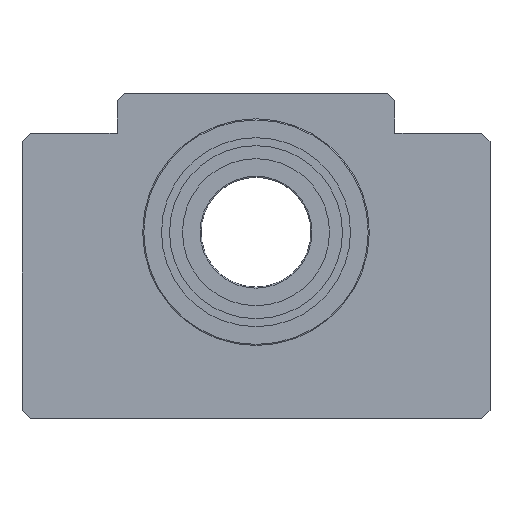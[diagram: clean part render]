
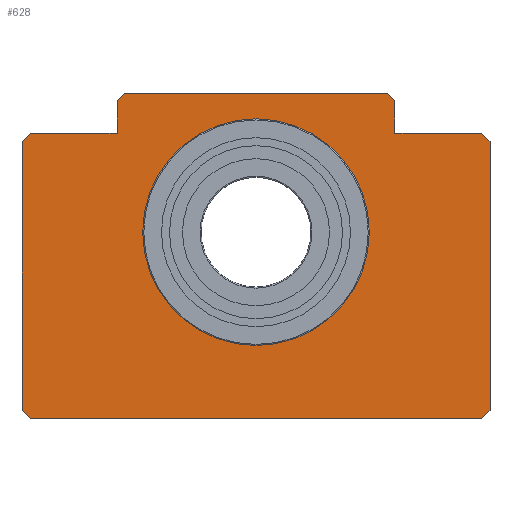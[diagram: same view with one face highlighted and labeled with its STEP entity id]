
A CAD part, top view. The second image highlights one B-rep face of the part: STEP entity #628.
In plain terms, the highlighted planar face has unit normal (0, 0, 1).
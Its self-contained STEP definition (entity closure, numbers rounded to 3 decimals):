
#52=CIRCLE('',#703,31.);
#152=ORIENTED_EDGE('',*,*,#268,.F.);
#153=ORIENTED_EDGE('',*,*,#221,.T.);
#154=ORIENTED_EDGE('',*,*,#225,.T.);
#155=ORIENTED_EDGE('',*,*,#230,.T.);
#156=ORIENTED_EDGE('',*,*,#233,.T.);
#157=ORIENTED_EDGE('',*,*,#236,.T.);
#158=ORIENTED_EDGE('',*,*,#239,.T.);
#159=ORIENTED_EDGE('',*,*,#243,.T.);
#160=ORIENTED_EDGE('',*,*,#246,.T.);
#161=ORIENTED_EDGE('',*,*,#249,.T.);
#162=ORIENTED_EDGE('',*,*,#252,.T.);
#163=ORIENTED_EDGE('',*,*,#255,.T.);
#164=ORIENTED_EDGE('',*,*,#258,.T.);
#165=ORIENTED_EDGE('',*,*,#262,.T.);
#166=ORIENTED_EDGE('',*,*,#265,.T.);
#221=EDGE_CURVE('',#293,#294,#351,.T.);
#225=EDGE_CURVE('',#294,#297,#355,.T.);
#230=EDGE_CURVE('',#297,#301,#358,.T.);
#233=EDGE_CURVE('',#301,#303,#361,.T.);
#236=EDGE_CURVE('',#303,#305,#364,.T.);
#239=EDGE_CURVE('',#305,#307,#367,.T.);
#243=EDGE_CURVE('',#307,#310,#370,.T.);
#246=EDGE_CURVE('',#310,#312,#373,.T.);
#249=EDGE_CURVE('',#312,#314,#376,.T.);
#252=EDGE_CURVE('',#314,#316,#379,.T.);
#255=EDGE_CURVE('',#316,#318,#382,.T.);
#258=EDGE_CURVE('',#318,#320,#385,.T.);
#262=EDGE_CURVE('',#320,#323,#388,.T.);
#265=EDGE_CURVE('',#323,#293,#391,.T.);
#268=EDGE_CURVE('',#326,#326,#52,.T.);
#293=VERTEX_POINT('',#954);
#294=VERTEX_POINT('',#955);
#297=VERTEX_POINT('',#963);
#301=VERTEX_POINT('',#973);
#303=VERTEX_POINT('',#979);
#305=VERTEX_POINT('',#985);
#307=VERTEX_POINT('',#991);
#310=VERTEX_POINT('',#999);
#312=VERTEX_POINT('',#1005);
#314=VERTEX_POINT('',#1011);
#316=VERTEX_POINT('',#1017);
#318=VERTEX_POINT('',#1023);
#320=VERTEX_POINT('',#1029);
#323=VERTEX_POINT('',#1037);
#326=VERTEX_POINT('',#1049);
#351=LINE('',#953,#393);
#355=LINE('',#962,#397);
#358=LINE('',#972,#400);
#361=LINE('',#978,#403);
#364=LINE('',#984,#406);
#367=LINE('',#990,#409);
#370=LINE('',#998,#412);
#373=LINE('',#1004,#415);
#376=LINE('',#1010,#418);
#379=LINE('',#1016,#421);
#382=LINE('',#1022,#424);
#385=LINE('',#1028,#427);
#388=LINE('',#1036,#430);
#391=LINE('',#1042,#433);
#393=VECTOR('',#761,1000.);
#397=VECTOR('',#767,1000.);
#400=VECTOR('',#776,1000.);
#403=VECTOR('',#781,1000.);
#406=VECTOR('',#786,1000.);
#409=VECTOR('',#791,1000.);
#412=VECTOR('',#798,1000.);
#415=VECTOR('',#803,1000.);
#418=VECTOR('',#808,1000.);
#421=VECTOR('',#813,1000.);
#424=VECTOR('',#818,1000.);
#427=VECTOR('',#823,1000.);
#430=VECTOR('',#830,1000.);
#433=VECTOR('',#835,1000.);
#455=EDGE_LOOP('',(#152));
#456=EDGE_LOOP('',(#153,#154,#155,#156,#157,#158,#159,#160,#161,#162,#163,
#164,#165,#166));
#531=FACE_BOUND('',#455,.T.);
#532=FACE_BOUND('',#456,.T.);
#602=PLANE('',#702);
#628=ADVANCED_FACE('',(#531,#532),#602,.T.);
#702=AXIS2_PLACEMENT_3D('',#1047,#841,#842);
#703=AXIS2_PLACEMENT_3D('',#1048,#843,#844);
#761=DIRECTION('',(0.,-1.,0.));
#767=DIRECTION('',(0.707,-0.707,0.));
#776=DIRECTION('',(1.,0.,0.));
#781=DIRECTION('',(0.707,0.707,0.));
#786=DIRECTION('',(0.,1.,0.));
#791=DIRECTION('',(-0.707,0.707,0.));
#798=DIRECTION('',(-1.,0.,0.));
#803=DIRECTION('',(0.,1.,0.));
#808=DIRECTION('',(-0.707,0.707,0.));
#813=DIRECTION('',(-1.,0.,0.));
#818=DIRECTION('',(-0.707,-0.707,0.));
#823=DIRECTION('',(0.,-1.,0.));
#830=DIRECTION('',(-1.,0.,0.));
#835=DIRECTION('',(-0.707,-0.707,0.));
#841=DIRECTION('',(0.,0.,1.));
#842=DIRECTION('',(1.,0.,0.));
#843=DIRECTION('',(0.,0.,1.));
#844=DIRECTION('',(1.,0.,0.));
#953=CARTESIAN_POINT('',(-64.,24.72,0.));
#954=CARTESIAN_POINT('',(-64.,24.72,0.));
#955=CARTESIAN_POINT('',(-64.,-48.72,0.));
#962=CARTESIAN_POINT('',(-64.,-48.72,0.));
#963=CARTESIAN_POINT('',(-61.72,-51.,0.));
#972=CARTESIAN_POINT('',(-61.72,-51.,0.));
#973=CARTESIAN_POINT('',(61.72,-51.,0.));
#978=CARTESIAN_POINT('',(61.72,-51.,0.));
#979=CARTESIAN_POINT('',(64.,-48.72,0.));
#984=CARTESIAN_POINT('',(64.,-48.72,0.));
#985=CARTESIAN_POINT('',(64.,24.72,0.));
#990=CARTESIAN_POINT('',(64.,24.72,0.));
#991=CARTESIAN_POINT('',(61.72,27.,0.));
#998=CARTESIAN_POINT('',(61.72,27.,0.));
#999=CARTESIAN_POINT('',(38.,27.,0.));
#1004=CARTESIAN_POINT('',(38.,27.,0.));
#1005=CARTESIAN_POINT('',(38.,36.,0.));
#1010=CARTESIAN_POINT('',(38.,36.,0.));
#1011=CARTESIAN_POINT('',(36.,38.,0.));
#1016=CARTESIAN_POINT('',(36.,38.,0.));
#1017=CARTESIAN_POINT('',(-36.,38.,0.));
#1022=CARTESIAN_POINT('',(-36.,38.,0.));
#1023=CARTESIAN_POINT('',(-38.,36.,0.));
#1028=CARTESIAN_POINT('',(-38.,36.,0.));
#1029=CARTESIAN_POINT('',(-38.,27.,0.));
#1036=CARTESIAN_POINT('',(-38.,27.,0.));
#1037=CARTESIAN_POINT('',(-61.72,27.,0.));
#1042=CARTESIAN_POINT('',(-61.72,27.,0.));
#1047=CARTESIAN_POINT('',(0.,0.,0.));
#1048=CARTESIAN_POINT('',(0.,0.,0.));
#1049=CARTESIAN_POINT('',(31.,0.,0.));
